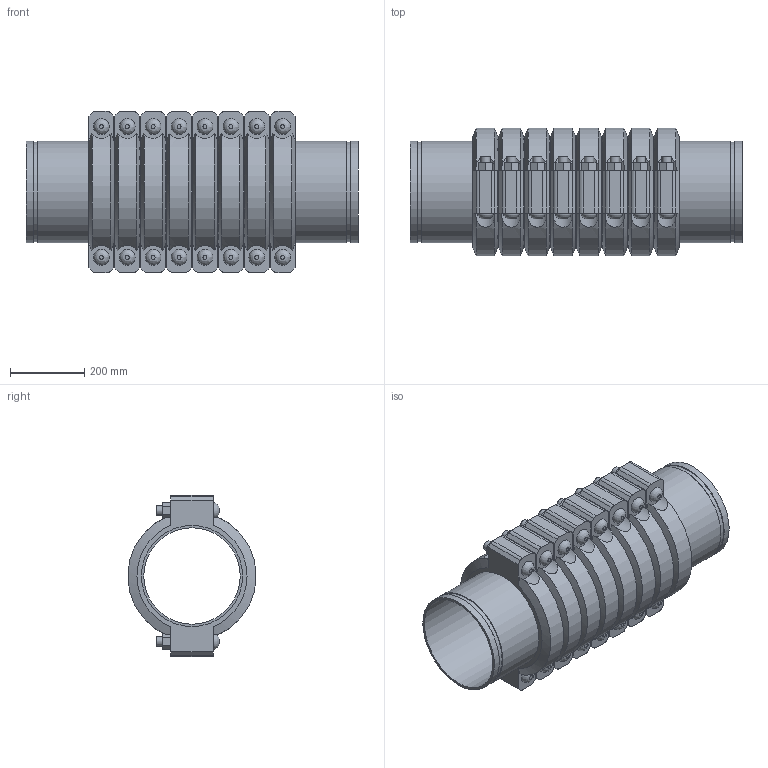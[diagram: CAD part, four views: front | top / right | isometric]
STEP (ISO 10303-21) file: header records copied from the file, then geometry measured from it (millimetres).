
FILE_DESCRIPTION(/* description */ ('VIC SS EXPANSION JOINT 8 COUPLINGS COMPRESSED STYLE 155P (OGS) (POTABLE WATER) ','CAx-IF Rec.Pracs.---Representation and Presentation of Product Manufacturing Information (PMI)---4.0---2014-10-13'),/* implementation_level */ '2;1');
FILE_NAME(/* name */ 'C:\Users\kkamble\AppData\Roaming\Autodesk\ApplicationPlugins\Victaulic.Temp\A39\Victaulic_SS_Expansion Joint_Compressed_8 Couplings_Style 155P (OGS)-Potable Water_8 Coup_Comp_10 (250).stp',/* time_stamp */ '2021-07-16T17:17:35+06:00',/* author */ ('kkamble'),/* organization */ ('Victaulic'),/* preprocessor_version */ 'ST-DEVELOPER v17.2',/* originating_system */ 'Autodesk Inventor 2019',/* authorisation */ '');
FILE_SCHEMA (('AP242_MANAGED_MODEL_BASED_3D_ENGINEERING_MIM_LF { 1 0 10303 442 1 1 4 }'));
Length unit declared in the file: inch
Products named in the file (4): 155P-10.0; Nipple-10.0; Nipple-10.0_1; 077-10.0
Assembly tree (17 placements, depth 2):
  155P-10.0
    Nipple-10.0  x2
    Nipple-10.0_1  x7
    077-10.0  x8
Bounding box: 895.35 x 344.9 x 435.1 mm (x, y, z)
Volume: 27674215.6 mm3; surface area: 3848146.4 mm2
Topology: 17 solids, 33 shells, 564 faces, 1382 edges, 968 vertices
Faces by surface type: plane 326, cylinder 190, cone 32, bspline 16
Full cylindrical faces by diameter (mm): 25.4 x32, 27.432 x16, 260.35 x9, 268.275 x18, 273.05 x35
Entity records: 3009 total; most frequent: CARTESIAN_POINT 667, DIRECTION 471, ORIENTED_EDGE 398, EDGE_CURVE 199, AXIS2_PLACEMENT_3D 192, VERTEX_POINT 142, EDGE_LOOP 105, CIRCLE 92
